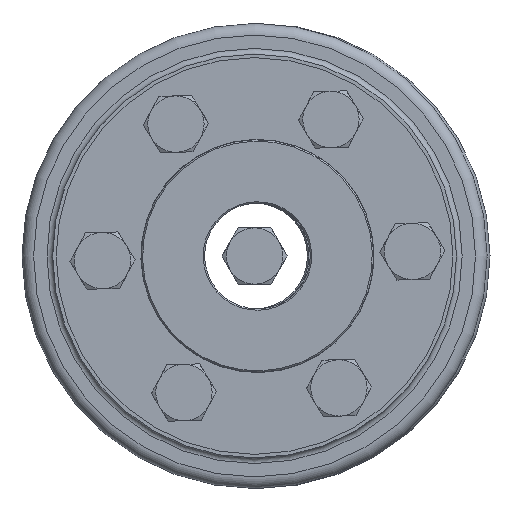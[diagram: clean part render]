
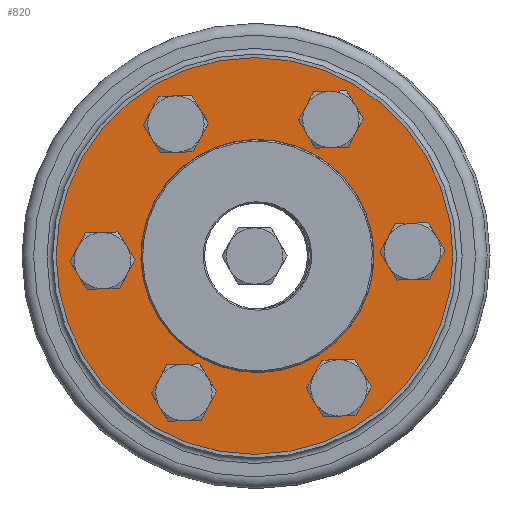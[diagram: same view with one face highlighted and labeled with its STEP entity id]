
A CAD part, left-side view. The second image highlights one B-rep face of the part: STEP entity #820.
In plain terms, the highlighted planar face has unit normal (-1, 0, 0).
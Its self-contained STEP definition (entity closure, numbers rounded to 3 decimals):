
#820 = ADVANCED_FACE( 'NONE', ( #1216, #1217, #1218, #1219, #1220, #1221, #1222, #1223 ), #1224, .F. );
#1216 = FACE_OUTER_BOUND( '', #1475, .T. );
#1217 = FACE_BOUND( '', #1476, .T. );
#1218 = FACE_BOUND( '', #1477, .T. );
#1219 = FACE_BOUND( '', #1478, .T. );
#1220 = FACE_BOUND( '', #1479, .T. );
#1221 = FACE_BOUND( '', #1480, .T. );
#1222 = FACE_BOUND( '', #1481, .T. );
#1223 = FACE_BOUND( '', #1482, .T. );
#1224 = PLANE( '', #1483 );
#1475 = EDGE_LOOP( '', ( #1872 ) );
#1476 = EDGE_LOOP( '', ( #1873 ) );
#1477 = EDGE_LOOP( '', ( #1874 ) );
#1478 = EDGE_LOOP( '', ( #1875 ) );
#1479 = EDGE_LOOP( '', ( #1876 ) );
#1480 = EDGE_LOOP( '', ( #1877 ) );
#1481 = EDGE_LOOP( '', ( #1878 ) );
#1482 = EDGE_LOOP( '', ( #1879 ) );
#1483 = AXIS2_PLACEMENT_3D( '', #1880, #1881, #1882 );
#1872 = ORIENTED_EDGE( '', *, *, #2232, .T. );
#1873 = ORIENTED_EDGE( '', *, *, #2235, .T. );
#1874 = ORIENTED_EDGE( '', *, *, #2236, .T. );
#1875 = ORIENTED_EDGE( '', *, *, #2237, .T. );
#1876 = ORIENTED_EDGE( '', *, *, #2238, .T. );
#1877 = ORIENTED_EDGE( '', *, *, #2239, .T. );
#1878 = ORIENTED_EDGE( '', *, *, #2240, .T. );
#1879 = ORIENTED_EDGE( '', *, *, #2234, .F. );
#1880 = CARTESIAN_POINT( '', ( 0., 16.5, 0. ) );
#1881 = DIRECTION( '', ( 1., 0., 0. ) );
#1882 = DIRECTION( '', ( 0., 1., 0. ) );
#2232 = EDGE_CURVE( 'NONE', #2491, #2491, #2492, .T. );
#2234 = EDGE_CURVE( 'NONE', #2495, #2495, #2496, .T. );
#2235 = EDGE_CURVE( 'NONE', #2497, #2497, #2498, .T. );
#2236 = EDGE_CURVE( 'NONE', #2499, #2499, #2500, .T. );
#2237 = EDGE_CURVE( 'NONE', #2501, #2501, #2502, .T. );
#2238 = EDGE_CURVE( 'NONE', #2503, #2503, #2504, .T. );
#2239 = EDGE_CURVE( 'NONE', #2505, #2505, #2506, .T. );
#2240 = EDGE_CURVE( 'NONE', #2507, #2507, #2508, .T. );
#2491 = VERTEX_POINT( '', #2677 );
#2492 = CIRCLE( '', #2678, 31.05 );
#2495 = VERTEX_POINT( '', #2681 );
#2496 = CIRCLE( '', #2682, 16.5 );
#2497 = VERTEX_POINT( '', #2683 );
#2498 = CIRCLE( '', #2684, 2.75 );
#2499 = VERTEX_POINT( '', #2685 );
#2500 = CIRCLE( '', #2686, 2.75 );
#2501 = VERTEX_POINT( '', #2687 );
#2502 = CIRCLE( '', #2688, 2.75 );
#2503 = VERTEX_POINT( '', #2689 );
#2504 = CIRCLE( '', #2690, 2.75 );
#2505 = VERTEX_POINT( '', #2691 );
#2506 = CIRCLE( '', #2692, 2.75 );
#2507 = VERTEX_POINT( '', #2693 );
#2508 = CIRCLE( '', #2694, 2.75 );
#2677 = CARTESIAN_POINT( '', ( 0., 0., -31.05 ) );
#2678 = AXIS2_PLACEMENT_3D( '', #2801, #2802, #2803 );
#2681 = CARTESIAN_POINT( '', ( 0., 0., 16.5 ) );
#2682 = AXIS2_PLACEMENT_3D( '', #2807, #2808, #2809 );
#2683 = CARTESIAN_POINT( '', ( 0., 11., 16.303 ) );
#2684 = AXIS2_PLACEMENT_3D( '', #2810, #2811, #2812 );
#2685 = CARTESIAN_POINT( '', ( 0., -11., 16.303 ) );
#2686 = AXIS2_PLACEMENT_3D( '', #2813, #2814, #2815 );
#2687 = CARTESIAN_POINT( '', ( 0., -22., -2.75 ) );
#2688 = AXIS2_PLACEMENT_3D( '', #2816, #2817, #2818 );
#2689 = CARTESIAN_POINT( '', ( 0., -11., -21.803 ) );
#2690 = AXIS2_PLACEMENT_3D( '', #2819, #2820, #2821 );
#2691 = CARTESIAN_POINT( '', ( 0., 11., -21.803 ) );
#2692 = AXIS2_PLACEMENT_3D( '', #2822, #2823, #2824 );
#2693 = CARTESIAN_POINT( '', ( 0., 22., -2.75 ) );
#2694 = AXIS2_PLACEMENT_3D( '', #2825, #2826, #2827 );
#2801 = CARTESIAN_POINT( '', ( 0., 0., 0. ) );
#2802 = DIRECTION( '', ( -1., 0., 0. ) );
#2803 = DIRECTION( '', ( 0., 0., -1. ) );
#2807 = CARTESIAN_POINT( '', ( 0., 0., 0. ) );
#2808 = DIRECTION( '', ( -1., 0., 0. ) );
#2809 = DIRECTION( '', ( 0., 0., 1. ) );
#2810 = CARTESIAN_POINT( '', ( 0., 11., 19.053 ) );
#2811 = DIRECTION( '', ( 1., 0., 0. ) );
#2812 = DIRECTION( '', ( 0., 0., -1. ) );
#2813 = CARTESIAN_POINT( '', ( 0., -11., 19.053 ) );
#2814 = DIRECTION( '', ( 1., 0., 0. ) );
#2815 = DIRECTION( '', ( 0., 0., -1. ) );
#2816 = CARTESIAN_POINT( '', ( 0., -22., 0. ) );
#2817 = DIRECTION( '', ( 1., 0., 0. ) );
#2818 = DIRECTION( '', ( 0., 0., -1. ) );
#2819 = CARTESIAN_POINT( '', ( 0., -11., -19.053 ) );
#2820 = DIRECTION( '', ( 1., 0., 0. ) );
#2821 = DIRECTION( '', ( 0., 0., -1. ) );
#2822 = CARTESIAN_POINT( '', ( 0., 11., -19.053 ) );
#2823 = DIRECTION( '', ( 1., 0., 0. ) );
#2824 = DIRECTION( '', ( 0., 0., -1. ) );
#2825 = CARTESIAN_POINT( '', ( 0., 22., 0. ) );
#2826 = DIRECTION( '', ( 1., 0., 0. ) );
#2827 = DIRECTION( '', ( 0., 0., -1. ) );
